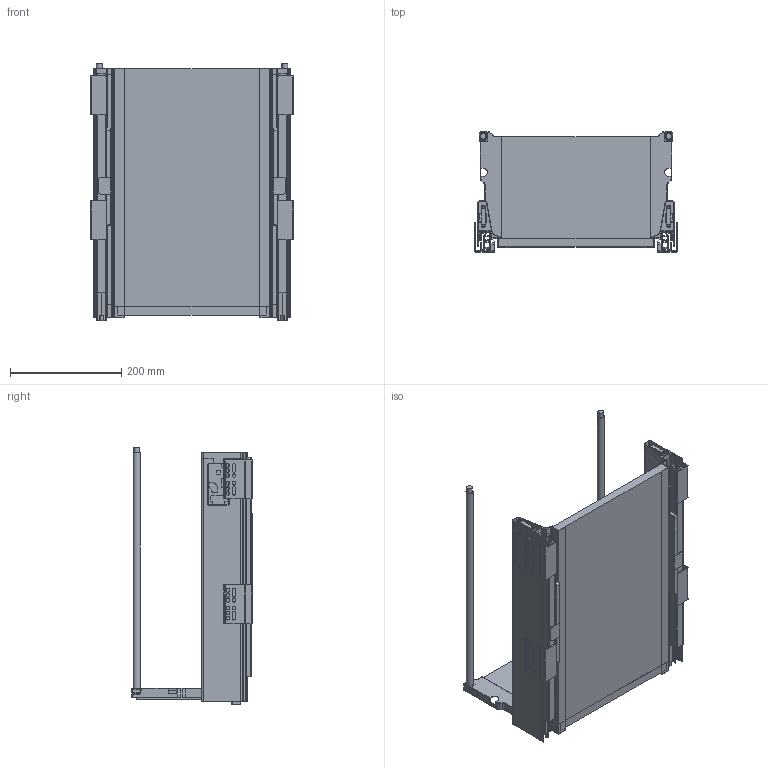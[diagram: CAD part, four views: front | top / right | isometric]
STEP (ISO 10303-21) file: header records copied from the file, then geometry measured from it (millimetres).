
FILE_DESCRIPTION(/* description */ (''),/* implementation_level */ '2;1');
FILE_NAME(/* name */ 'D:\$Workingspace\Designs\Katalog\Cadsoft\GTV Prwadnice II\PB-D(KW)\PB-D(KW)\MB bryły 3D\PB-D-P2O450C.stp',/* time_stamp */ '2017-02-09T09:17:39+01:00',/* author */ ('tomaszw'),/* organization */ (''),/* preprocessor_version */ 'ST-DEVELOPER v16.1',/* originating_system */ 'Autodesk Inventor 2016',/* authorisation */ '');
FILE_SCHEMA (('CONFIG_CONTROL_DESIGN'));
Length unit declared in the file: millimetre
Products named in the file (17): PB-D-PRP2O-CL-450; PB-D-PRP2O-CR-450; PB-D-PRP2O-DL-450; PB-D-PRP2O-DR-450; PB-D-PR-DWL-450; PB-D-PR-DWR-450; PB-D-PRP2O-450; PB-M-450-L; PB-M-450-R; MF-01; MB; MST-H-R; MST-H-L; PB-D-REL450; B_H; A_450; PB-D(KW)
Assembly tree (19 placements, depth 3):
  PB-D(KW)
    PB-D-PRP2O-450
      PB-D-PRP2O-CL-450
      PB-D-PRP2O-CR-450
      PB-D-PRP2O-DL-450
      PB-D-PRP2O-DR-450
      PB-D-PR-DWL-450
      PB-D-PR-DWR-450
    PB-M-450-L
    PB-M-450-R
    MF-01  x2
    MB  x2
    MST-H-R
    MST-H-L
    PB-D-REL450  x2
    B_H
    A_450
Bounding box: 364 x 216.25 x 461.5 mm (x, y, z)
Volume: 4262339.3 mm3; surface area: 1473511 mm2
Topology: 28 solids, 28 shells, 1382 faces, 3666 edges, 2334 vertices
Faces by surface type: plane 736, cylinder 494, torus 70, cone 48, sphere 32, bspline 2
Full cylindrical faces by diameter (mm): 4 x4, 6.5 x32, 10 x2, 13 x2
Entity records: 40214 total; most frequent: DIRECTION 6756, CARTESIAN_POINT 6741, ORIENTED_EDGE 6540, EDGE_CURVE 3270, LINE 2314, VECTOR 2314, AXIS2_PLACEMENT_3D 2221, VERTEX_POINT 2148
